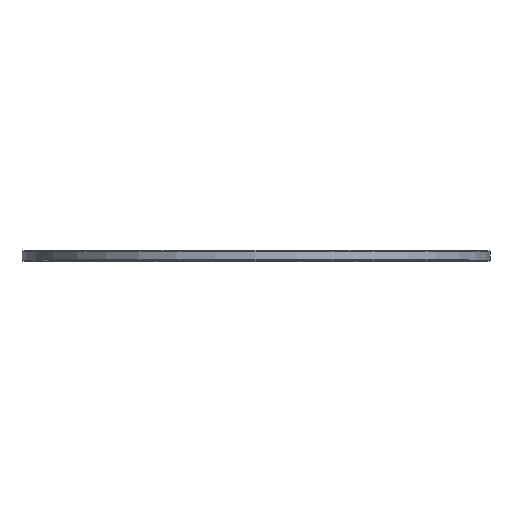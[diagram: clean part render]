
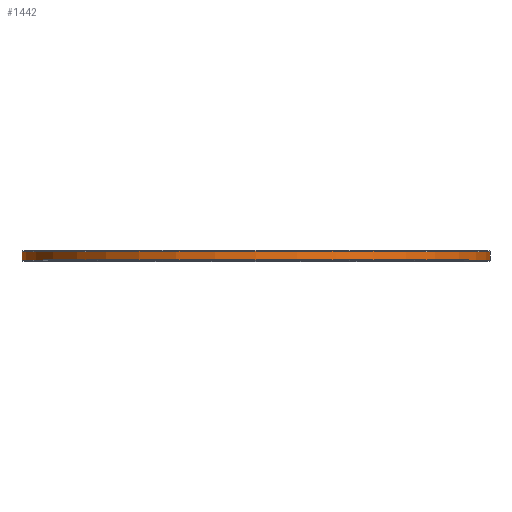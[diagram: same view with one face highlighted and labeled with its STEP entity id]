
A CAD part, top view. The second image highlights one B-rep face of the part: STEP entity #1442.
In plain terms, the highlighted cylindrical face has radius 702.5 mm (diameter 1405 mm), a full revolution.
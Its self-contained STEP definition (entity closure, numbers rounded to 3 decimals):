
#278=ORIENTED_EDGE('',*,*,#488,.T.);
#279=ORIENTED_EDGE('',*,*,#489,.T.);
#488=EDGE_CURVE('',#624,#624,#760,.F.);
#489=EDGE_CURVE('',#625,#625,#761,.T.);
#624=VERTEX_POINT('',#2536);
#625=VERTEX_POINT('',#2538);
#760=CIRCLE('',#1686,702.5);
#761=CIRCLE('',#1687,702.5);
#958=EDGE_LOOP('',(#278));
#959=EDGE_LOOP('',(#279));
#1230=FACE_BOUND('',#958,.T.);
#1231=FACE_BOUND('',#959,.T.);
#1346=CYLINDRICAL_SURFACE('',#1685,702.5);
#1442=ADVANCED_FACE('',(#1230,#1231),#1346,.T.);
#1685=AXIS2_PLACEMENT_3D('',#2534,#2147,#2148);
#1686=AXIS2_PLACEMENT_3D('',#2535,#2149,#2150);
#1687=AXIS2_PLACEMENT_3D('',#2537,#2151,#2152);
#2147=DIRECTION('',(0.,-1.,0.));
#2148=DIRECTION('',(0.,0.,-1.));
#2149=DIRECTION('',(0.,1.,0.));
#2150=DIRECTION('',(0.,0.,1.));
#2151=DIRECTION('',(0.,1.,0.));
#2152=DIRECTION('',(0.,0.,1.));
#2534=CARTESIAN_POINT('',(0.,31.,0.));
#2535=CARTESIAN_POINT('',(0.,28.,0.));
#2536=CARTESIAN_POINT('',(0.,28.,702.5));
#2537=CARTESIAN_POINT('',(0.,3.,0.));
#2538=CARTESIAN_POINT('',(0.,3.,702.5));
